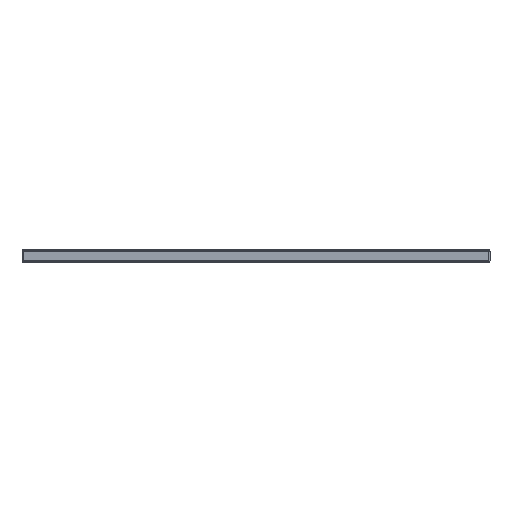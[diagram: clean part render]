
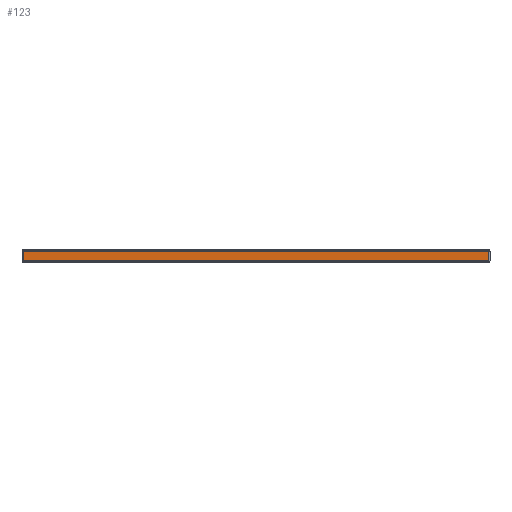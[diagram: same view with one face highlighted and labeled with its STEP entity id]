
A CAD part, front view. The second image highlights one B-rep face of the part: STEP entity #123.
In plain terms, the highlighted planar face has unit normal (0, -1, 0).
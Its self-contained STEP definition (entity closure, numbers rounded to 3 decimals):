
#123=ADVANCED_FACE('',(#1163),#1165,.F.);
#1163=FACE_BOUND('',#1164,.T.);
#1164=EDGE_LOOP('',(#2189,#2190,#2191,#2192));
#1165=PLANE('',#1166);
#1166=AXIS2_PLACEMENT_3D('',#1167,#1168,#1169);
#1167=CARTESIAN_POINT('',(0.,-766.5,0.));
#1168=DIRECTION('',(0.,1.,0.));
#1169=DIRECTION('',(0.,0.,1.));
#2189=ORIENTED_EDGE('',*,*,#2627,.F.);
#2190=ORIENTED_EDGE('',*,*,#2629,.F.);
#2191=ORIENTED_EDGE('',*,*,#2630,.F.);
#2192=ORIENTED_EDGE('',*,*,#2631,.F.);
#2627=EDGE_CURVE('',#3044,#3038,#3047,.T.);
#2629=EDGE_CURVE('',#3049,#3044,#3050,.T.);
#2630=EDGE_CURVE('',#3051,#3049,#3052,.T.);
#2631=EDGE_CURVE('',#3038,#3051,#3053,.T.);
#3038=VERTEX_POINT('',#4568);
#3044=VERTEX_POINT('',#4741);
#3047=LINE('',#4803,#4804);
#3049=VERTEX_POINT('',#4809);
#3050=LINE('',#4810,#4811);
#3051=VERTEX_POINT('',#4813);
#3052=LINE('',#4814,#4815);
#3053=LINE('',#4817,#4818);
#4568=CARTESIAN_POINT('',(436.823,-766.5,-4.));
#4741=CARTESIAN_POINT('',(-436.823,-766.5,-4.));
#4803=CARTESIAN_POINT('',(-436.823,-766.5,-4.));
#4804=VECTOR('',#4805,1.);
#4805=DIRECTION('',(1.,0.,0.));
#4809=CARTESIAN_POINT('',(-436.823,-766.5,-21.));
#4810=CARTESIAN_POINT('',(-436.823,-766.5,-21.));
#4811=VECTOR('',#4812,1.);
#4812=DIRECTION('',(0.,0.,1.));
#4813=CARTESIAN_POINT('',(436.823,-766.5,-21.));
#4814=CARTESIAN_POINT('',(436.823,-766.5,-21.));
#4815=VECTOR('',#4816,1.);
#4816=DIRECTION('',(-1.,0.,0.));
#4817=CARTESIAN_POINT('',(436.823,-766.5,-4.));
#4818=VECTOR('',#4819,1.);
#4819=DIRECTION('',(0.,0.,-1.));
